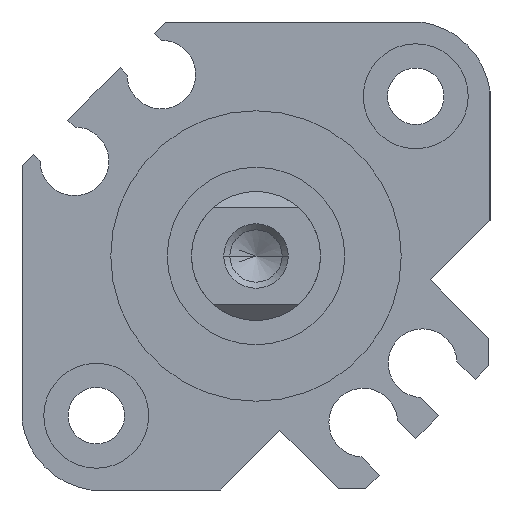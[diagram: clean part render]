
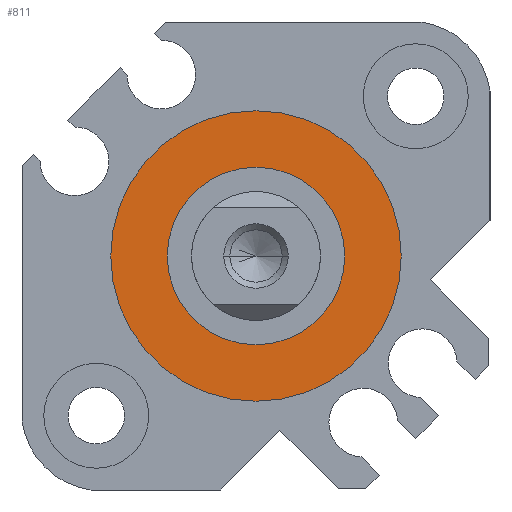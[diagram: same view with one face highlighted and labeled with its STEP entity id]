
A CAD part, left-side view. The second image highlights one B-rep face of the part: STEP entity #811.
In plain terms, the highlighted planar face has unit normal (-1, 0, 0).
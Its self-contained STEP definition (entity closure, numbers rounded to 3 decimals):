
#30 = CIRCLE ( 'NONE', #1909, 9. ) ;
#33 = CARTESIAN_POINT ( 'NONE',  ( 1.1, 0., 0. ) ) ;
#173 = DIRECTION ( 'NONE',  ( 1., 0., 0. ) ) ;
#246 = EDGE_CURVE ( 'NONE', #1248, #2094, #3334, .T. ) ;
#250 = CARTESIAN_POINT ( 'NONE',  ( 1.1, 0., 5.5 ) ) ;
#255 = DIRECTION ( 'NONE',  ( 1., 0., 0. ) ) ;
#273 = DIRECTION ( 'NONE',  ( 0., 0., -1. ) ) ;
#328 = CARTESIAN_POINT ( 'NONE',  ( 1.1, 0., -5.5 ) ) ;
#384 = ORIENTED_EDGE ( 'NONE', *, *, #1898, .F. ) ;
#451 = DIRECTION ( 'NONE',  ( 1., 0., 0. ) ) ;
#660 = CARTESIAN_POINT ( 'NONE',  ( 1.1, 0., 0. ) ) ;
#665 = FACE_BOUND ( 'NONE', #1385, .T. ) ;
#811 = ADVANCED_FACE ( 'NONE', ( #2536, #665 ), #1771, .F. ) ;
#851 = CIRCLE ( 'NONE', #1402, 9. ) ;
#941 = DIRECTION ( 'NONE',  ( 0., 0., -1. ) ) ;
#1054 = VERTEX_POINT ( 'NONE', #2463 ) ;
#1076 = ORIENTED_EDGE ( 'NONE', *, *, #2893, .F. ) ;
#1085 = DIRECTION ( 'NONE',  ( 0., 0., -1. ) ) ;
#1248 = VERTEX_POINT ( 'NONE', #250 ) ;
#1385 = EDGE_LOOP ( 'NONE', ( #2950, #1939 ) ) ;
#1396 = AXIS2_PLACEMENT_3D ( 'NONE', #3162, #1547, #273 ) ;
#1402 = AXIS2_PLACEMENT_3D ( 'NONE', #2506, #451, #2802 ) ;
#1414 = VERTEX_POINT ( 'NONE', #2182 ) ;
#1547 = DIRECTION ( 'NONE',  ( 1., 0., 0. ) ) ;
#1741 = AXIS2_PLACEMENT_3D ( 'NONE', #660, #173, #941 ) ;
#1771 = PLANE ( 'NONE',  #2737 ) ;
#1898 = EDGE_CURVE ( 'NONE', #1054, #1414, #30, .T. ) ;
#1909 = AXIS2_PLACEMENT_3D ( 'NONE', #33, #255, #1085 ) ;
#1939 = ORIENTED_EDGE ( 'NONE', *, *, #2754, .T. ) ;
#2049 = DIRECTION ( 'NONE',  ( 0., 1., 0. ) ) ;
#2094 = VERTEX_POINT ( 'NONE', #328 ) ;
#2182 = CARTESIAN_POINT ( 'NONE',  ( 1.1, 0., -9. ) ) ;
#2311 = CARTESIAN_POINT ( 'NONE',  ( 1.1, 0., 0. ) ) ;
#2463 = CARTESIAN_POINT ( 'NONE',  ( 1.1, 0., 9. ) ) ;
#2506 = CARTESIAN_POINT ( 'NONE',  ( 1.1, 0., 0. ) ) ;
#2536 = FACE_OUTER_BOUND ( 'NONE', #2992, .T. ) ;
#2635 = CIRCLE ( 'NONE', #1741, 5.5 ) ;
#2737 = AXIS2_PLACEMENT_3D ( 'NONE', #2311, #3089, #2049 ) ;
#2754 = EDGE_CURVE ( 'NONE', #2094, #1248, #2635, .T. ) ;
#2802 = DIRECTION ( 'NONE',  ( 0., 0., -1. ) ) ;
#2893 = EDGE_CURVE ( 'NONE', #1414, #1054, #851, .T. ) ;
#2950 = ORIENTED_EDGE ( 'NONE', *, *, #246, .T. ) ;
#2992 = EDGE_LOOP ( 'NONE', ( #384, #1076 ) ) ;
#3089 = DIRECTION ( 'NONE',  ( 1., 0., 0. ) ) ;
#3162 = CARTESIAN_POINT ( 'NONE',  ( 1.1, 0., 0. ) ) ;
#3334 = CIRCLE ( 'NONE', #1396, 5.5 ) ;
